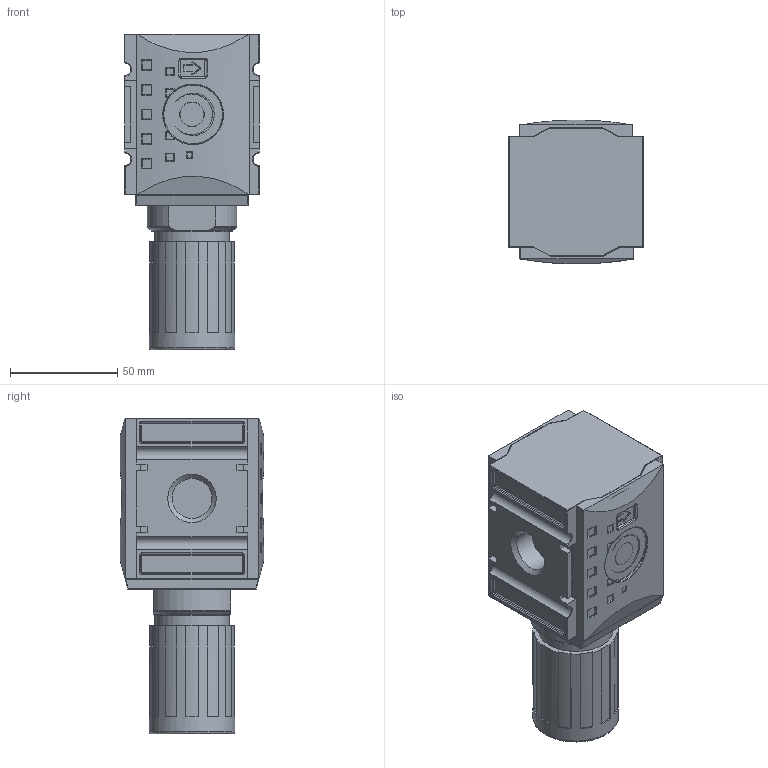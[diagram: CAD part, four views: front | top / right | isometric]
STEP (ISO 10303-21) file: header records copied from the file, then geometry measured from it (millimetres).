
FILE_DESCRIPTION((''),'2;1');
FILE_NAME('K:\ZEICHNG\Kunden Modelle\Airtec Schweden\BG2\KREG-212.stp','2010-02-01T15:16:42',('DDruske'),(''),'Autodesk Inventor 2009','Autodesk Inventor 2009','');
FILE_SCHEMA(('AUTOMOTIVE_DESIGN { 1 0 10303 214 1 1 1 1 }'));
Length unit declared in the file: millimetre
Products named in the file (1): Bauteil8
Bounding box: 63 x 67.13 x 147.5 mm (x, y, z)
Volume: 340783.3 mm3; surface area: 59264 mm2
Topology: 1 solids, 1 shells, 874 faces, 2334 edges, 1423 vertices
Faces by surface type: plane 334, cylinder 289, bspline 143, torus 75, sphere 20, cone 13
Full cylindrical faces by diameter (mm): 11.245 x1, 11.445 x1, 18.631 x1, 19 x2, 28 x2, 35 x1, 40 x1
Entity records: 34658 total; most frequent: CARTESIAN_POINT 12973, ORIENTED_EDGE 4528, DIRECTION 4052, EDGE_CURVE 2264, VERTEX_POINT 1415, AXIS2_PLACEMENT_3D 1354, VECTOR 1344, LINE 1344
